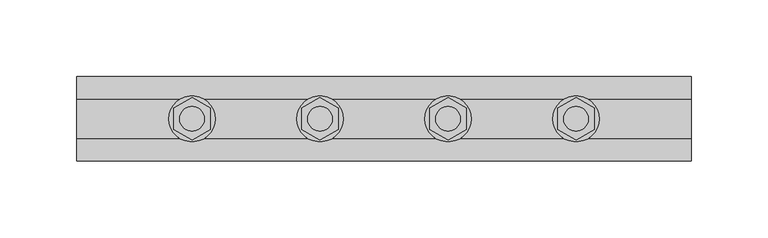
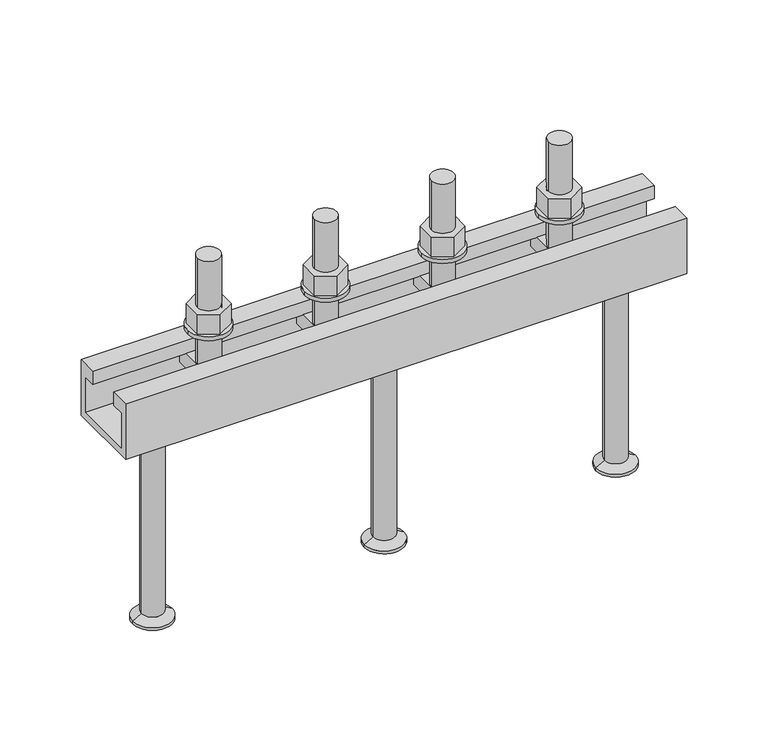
"""IFC4 building model written with IfcOpenShell, lengths in millimetres: fastener geometry, JTA-W JORDAHL® AnchorChannels : JTA-W L=400 mm."""

from ifc_helpers import new_model, si_unit, point, frame, frame_2d, origin, place, context, project, spatial, polyline, circle_curve, trimmed, segment, composite_curve, outline, extrude, source, transform, mapped, element, save
from ifc_brep_helpers import plane_surface, cylinder_surface, revolved_surface, advanced_brep


def fastener_f13404a8(model_context):
    return source(origin(), model_context, "Body", "SolidModel", [
        extrude(outline(polyline([(241.6666667, -13.8564065), (229.6666667, -6.9282032), (229.6666667, 6.9282032), (241.6666667, 13.8564065), (253.6666667, 6.9282032), (253.6666667, -6.9282032), (241.6666667, -13.8564065)]), holes=[composite_curve([segment(trimmed(circle_curve(frame_2d((241.6666667, 0.0)), 8.0), [point((233.6666667, 0.0))], [point((249.6666667, 0.0))], True, "CARTESIAN"), True, "CONTINUOUS"), segment(trimmed(circle_curve(frame_2d((241.6666667, 0.0)), 8.0), [point((249.6666667, 0.0))], [point((233.6666667, 0.0))], True, "CARTESIAN"), True, "CONTINUOUS")], self_intersect=False)]), frame((0.0, 0.0, 18.0), z_axis=(0.0, 0.0, 1.0), x_axis=(1.0, 0.0, 0.0)), (0.0, 0.0, 1.0), 14.8),
        extrude(outline(composite_curve([segment(trimmed(circle_curve(frame_2d((241.6666667, 0.0)), 15.0), [point((226.6666667, 0.0))], [point((256.6666667, 0.0))], False, "CARTESIAN"), True, "CONTINUOUS"), segment(trimmed(circle_curve(frame_2d((241.6666667, 0.0)), 15.0), [point((256.6666667, 0.0))], [point((226.6666667, 0.0))], False, "CARTESIAN"), True, "CONTINUOUS")], self_intersect=False), holes=[composite_curve([segment(trimmed(circle_curve(frame_2d((241.6666667, 0.0)), 8.5), [point((233.1666667, 0.0))], [point((250.1666667, 0.0))], True, "CARTESIAN"), True, "CONTINUOUS"), segment(trimmed(circle_curve(frame_2d((241.6666667, 0.0)), 8.5), [point((250.1666667, 0.0))], [point((233.1666667, 0.0))], True, "CARTESIAN"), True, "CONTINUOUS")], self_intersect=False)]), frame((0.0, 0.0, 15.0), z_axis=(0.0, 0.0, 1.0), x_axis=(1.0, 0.0, 0.0)), (0.0, 0.0, 1.0), 3.0),
        extrude(outline(polyline([(158.3333333, -13.8564065), (146.3333333, -6.9282032), (146.3333333, 6.9282032), (158.3333333, 13.8564065), (170.3333333, 6.9282032), (170.3333333, -6.9282032), (158.3333333, -13.8564065)]), holes=[composite_curve([segment(trimmed(circle_curve(frame_2d((158.3333333, 0.0)), 8.0), [point((150.3333333, 0.0))], [point((166.3333333, 0.0))], True, "CARTESIAN"), True, "CONTINUOUS"), segment(trimmed(circle_curve(frame_2d((158.3333333, 0.0)), 8.0), [point((166.3333333, 0.0))], [point((150.3333333, 0.0))], True, "CARTESIAN"), True, "CONTINUOUS")], self_intersect=False)]), frame((0.0, 0.0, 18.0), z_axis=(0.0, 0.0, 1.0), x_axis=(1.0, 0.0, 0.0)), (0.0, 0.0, 1.0), 14.8),
        extrude(outline(composite_curve([segment(trimmed(circle_curve(frame_2d((158.3333333, 0.0)), 15.0), [point((143.3333333, 0.0))], [point((173.3333333, 0.0))], False, "CARTESIAN"), True, "CONTINUOUS"), segment(trimmed(circle_curve(frame_2d((158.3333333, 0.0)), 15.0), [point((173.3333333, 0.0))], [point((143.3333333, 0.0))], False, "CARTESIAN"), True, "CONTINUOUS")], self_intersect=False), holes=[composite_curve([segment(trimmed(circle_curve(frame_2d((158.3333333, 0.0)), 8.5), [point((149.8333333, 0.0))], [point((166.8333333, 0.0))], True, "CARTESIAN"), True, "CONTINUOUS"), segment(trimmed(circle_curve(frame_2d((158.3333333, 0.0)), 8.5), [point((166.8333333, 0.0))], [point((149.8333333, 0.0))], True, "CARTESIAN"), True, "CONTINUOUS")], self_intersect=False)]), frame((0.0, 0.0, 15.0), z_axis=(0.0, 0.0, 1.0), x_axis=(1.0, 0.0, 0.0)), (0.0, 0.0, 1.0), 3.0),
        advanced_brep(
        [(250.1666667, -20.7, -10.0), (250.1666667, -20.7, -21.0), (250.1666667, 20.7, -21.0), (250.1666667, 20.7, -10.0), (233.1666667, -20.7, -10.0), (233.1666667, 20.7, -10.0), (233.1666667, 20.7, -21.0), (233.1666667, -20.7, -21.0), (249.6666667, 0.0, -10.0), (233.6666667, 0.0, -10.0), (233.6666667, 0.0, 70.0), (249.6666667, 0.0, 70.0)],
        [
            (0, 1),
            (1, 2),
            (2, 3),
            (3, 0),
            (4, 5),
            (5, 6),
            (6, 7),
            (7, 4),
            (3, 5),
            (4, 0),
            (8, 9, circle_curve(frame((241.6666667, 0.0, -10.0), z_axis=(0.0, 0.0, -1.0), x_axis=(1.0, 0.0, 0.0)), 8.0)),
            (9, 8, circle_curve(frame((241.6666667, 0.0, -10.0), z_axis=(0.0, 0.0, -1.0), x_axis=(1.0, 0.0, 0.0)), 8.0)),
            (2, 6),
            (1, 7),
            (10, 11, circle_curve(frame((241.6666667, 0.0, 70.0), z_axis=(0.0, 0.0, 1.0), x_axis=(1.0, 0.0, 0.0)), 8.0)),
            (11, 10, circle_curve(frame((241.6666667, 0.0, 70.0), z_axis=(0.0, 0.0, 1.0), x_axis=(1.0, 0.0, 0.0)), 8.0)),
            (11, 8),
            (9, 10),
        ],
        [
            plane_surface(frame((250.1666667, 20.7, -10.0), z_axis=(1.0, 0.0, 0.0), x_axis=(0.0, 1.0, 0.0))),
            plane_surface(frame((233.1666667, 20.7, -10.0), z_axis=(-1.0, 0.0, 0.0), x_axis=(0.0, -1.0, 0.0))),
            plane_surface(frame((250.1666667, -20.7, -10.0), z_axis=(0.0, 0.0, 1.0), x_axis=(-1.0, 0.0, 0.0))),
            plane_surface(frame((250.1666667, 20.7, -10.0), z_axis=(0.0, 1.0, 0.0), x_axis=(-1.0, 0.0, 0.0))),
            plane_surface(frame((250.1666667, 20.7, -21.0), z_axis=(0.0, 0.0, -1.0), x_axis=(-1.0, 0.0, 0.0))),
            plane_surface(frame((250.1666667, -20.7, -21.0), z_axis=(0.0, -1.0, 0.0), x_axis=(-1.0, 0.0, 0.0))),
            plane_surface(frame((249.6666667, 0.0, 70.0), z_axis=(0.0, 0.0, 1.0), x_axis=(0.0, -1.0, 0.0))),
            cylinder_surface(frame((241.6666667, 0.0, -10.0), z_axis=(0.0, 0.0, 1.0), x_axis=(1.0, 0.0, 0.0)), 8.0),
        ],
        [
            (0, [[1, 2, 3, 4]]),
            (1, [[5, 6, 7, 8]]),
            (2, [[9, -5, 10, -4], [11, 12]]),
            (3, [[13, -6, -9, -3]]),
            (4, [[14, -7, -13, -2]]),
            (5, [[-10, -8, -14, -1]]),
            (6, [[15, 16]]),
            (7, [[17, -12, 18, -16]]),
            (7, [[-18, -11, -17, -15]]),
        ],
    ),
        advanced_brep(
        [(166.8333333, -20.7, -10.0), (166.8333333, -20.7, -21.0), (166.8333333, 20.7, -21.0), (166.8333333, 20.7, -10.0), (149.8333333, -20.7, -10.0), (149.8333333, 20.7, -10.0), (149.8333333, 20.7, -21.0), (149.8333333, -20.7, -21.0), (166.3333333, 0.0, -10.0), (150.3333333, 0.0, -10.0), (150.3333333, 0.0, 70.0), (166.3333333, 0.0, 70.0)],
        [
            (0, 1),
            (1, 2),
            (2, 3),
            (3, 0),
            (4, 5),
            (5, 6),
            (6, 7),
            (7, 4),
            (3, 5),
            (4, 0),
            (8, 9, circle_curve(frame((158.3333333, 0.0, -10.0), z_axis=(0.0, 0.0, -1.0), x_axis=(1.0, 0.0, 0.0)), 8.0)),
            (9, 8, circle_curve(frame((158.3333333, 0.0, -10.0), z_axis=(0.0, 0.0, -1.0), x_axis=(1.0, 0.0, 0.0)), 8.0)),
            (2, 6),
            (1, 7),
            (10, 11, circle_curve(frame((158.3333333, 0.0, 70.0), z_axis=(0.0, 0.0, 1.0), x_axis=(1.0, 0.0, 0.0)), 8.0)),
            (11, 10, circle_curve(frame((158.3333333, 0.0, 70.0), z_axis=(0.0, 0.0, 1.0), x_axis=(1.0, 0.0, 0.0)), 8.0)),
            (11, 8),
            (9, 10),
        ],
        [
            plane_surface(frame((166.8333333, 20.7, -10.0), z_axis=(1.0, 0.0, 0.0), x_axis=(0.0, 1.0, 0.0))),
            plane_surface(frame((149.8333333, 20.7, -10.0), z_axis=(-1.0, 0.0, 0.0), x_axis=(0.0, -1.0, 0.0))),
            plane_surface(frame((166.8333333, -20.7, -10.0), z_axis=(0.0, 0.0, 1.0), x_axis=(-1.0, 0.0, 0.0))),
            plane_surface(frame((166.8333333, 20.7, -10.0), z_axis=(0.0, 1.0, 0.0), x_axis=(-1.0, 0.0, 0.0))),
            plane_surface(frame((166.8333333, 20.7, -21.0), z_axis=(0.0, 0.0, -1.0), x_axis=(-1.0, 0.0, 0.0))),
            plane_surface(frame((166.8333333, -20.7, -21.0), z_axis=(0.0, -1.0, 0.0), x_axis=(-1.0, 0.0, 0.0))),
            plane_surface(frame((166.3333333, 0.0, 70.0), z_axis=(0.0, 0.0, 1.0), x_axis=(0.0, -1.0, 0.0))),
            cylinder_surface(frame((158.3333333, 0.0, -10.0), z_axis=(0.0, 0.0, 1.0), x_axis=(1.0, 0.0, 0.0)), 8.0),
        ],
        [
            (0, [[1, 2, 3, 4]]),
            (1, [[5, 6, 7, 8]]),
            (2, [[9, -5, 10, -4], [11, 12]]),
            (3, [[13, -6, -9, -3]]),
            (4, [[14, -7, -13, -2]]),
            (5, [[-10, -8, -14, -1]]),
            (6, [[15, 16]]),
            (7, [[17, -12, 18, -16]]),
            (7, [[-18, -11, -17, -15]]),
        ],
    ),
        advanced_brep(
        [(200.0, 0.0, -42.0), (177.0, 0.0, -42.0), (223.0, 0.0, -42.0), (186.0, 0.0, -190.0), (200.0, 0.0, -190.0), (214.0, 0.0, -190.0), (186.0, 0.0, -188.0), (214.0, 0.0, -188.0), (192.2, 0.0, -184.4204283), (207.8, 0.0, -184.4204283), (192.2, 0.0, -46.0), (207.8, 0.0, -46.0)],
        [
            (0, 1),
            (1, 2, circle_curve(frame((200.0, 0.0, -42.0), z_axis=(0.0, 0.0, 1.0), x_axis=(1.0, 0.0, 0.0)), 23.0)),
            (2, 0),
            (2, 1, circle_curve(frame((200.0, 0.0, -42.0), z_axis=(0.0, 0.0, 1.0), x_axis=(1.0, 0.0, 0.0)), 23.0)),
            (3, 4),
            (4, 5),
            (5, 3, circle_curve(frame((200.0, 0.0, -190.0), z_axis=(0.0, 0.0, -1.0), x_axis=(1.0, 0.0, 0.0)), 14.0)),
            (3, 5, circle_curve(frame((200.0, 0.0, -190.0), z_axis=(0.0, 0.0, -1.0), x_axis=(1.0, 0.0, 0.0)), 14.0)),
            (6, 3),
            (5, 7),
            (7, 6, circle_curve(frame((200.0, 0.0, -188.0), z_axis=(0.0, 0.0, -1.0), x_axis=(1.0, 0.0, 0.0)), 14.0)),
            (6, 7, circle_curve(frame((200.0, 0.0, -188.0), z_axis=(0.0, 0.0, -1.0), x_axis=(1.0, 0.0, 0.0)), 14.0)),
            (8, 6),
            (7, 9),
            (9, 8, circle_curve(frame((200.0, 0.0, -184.4204283), z_axis=(0.0, 0.0, -1.0), x_axis=(1.0, 0.0, 0.0)), 7.8)),
            (8, 9, circle_curve(frame((200.0, 0.0, -184.4204283), z_axis=(0.0, 0.0, -1.0), x_axis=(1.0, 0.0, 0.0)), 7.8)),
            (10, 8),
            (9, 11),
            (11, 10, circle_curve(frame((200.0, 0.0, -46.0), z_axis=(0.0, 0.0, -1.0), x_axis=(1.0, 0.0, 0.0)), 7.8)),
            (10, 11, circle_curve(frame((200.0, 0.0, -46.0), z_axis=(0.0, 0.0, -1.0), x_axis=(1.0, 0.0, 0.0)), 7.8)),
            (1, 10),
            (11, 2),
        ],
        [
            plane_surface(frame((200.0, 0.0, -42.0), z_axis=(0.0, 0.0, 1.0), x_axis=(1.0, 0.0, 0.0))),
            plane_surface(frame((200.0, 0.0, -190.0), z_axis=(0.0, 0.0, -1.0), x_axis=(1.0, 0.0, 0.0))),
            cylinder_surface(frame((200.0, 0.0, 2362.3150031), z_axis=(0.0, 0.0, 1.0), x_axis=(1.0, 0.0, 0.0)), 14.0),
            revolved_surface(polyline([(214.0, 0.0, -188.0), (207.8, 0.0, -184.4204283)]), (200.0, 0.0, 2362.3150031), (0.0, 0.0, 1.0)),
            cylinder_surface(frame((200.0, 0.0, 2362.3150031), z_axis=(0.0, 0.0, 1.0), x_axis=(1.0, 0.0, 0.0)), 7.8),
            revolved_surface(polyline([(207.8, 0.0, -46.0), (223.0, 0.0, -42.0)]), (200.0, 0.0, 2362.3150031), (0.0, 0.0, 1.0)),
        ],
        [
            (0, [[1, 2, 3]]),
            (0, [[-3, 4, -1]]),
            (1, [[5, 6, 7]]),
            (1, [[-6, -5, 8]]),
            (2, [[9, -7, 10, 11]]),
            (2, [[-10, -8, -9, 12]]),
            (3, [[13, -11, 14, 15]]),
            (3, [[-14, -12, -13, 16]]),
            (4, [[17, -15, 18, 19]]),
            (4, [[-18, -16, -17, 20]]),
            (5, [[21, -19, 22, -2]]),
            (5, [[-22, -20, -21, -4]]),
        ],
    ),
        extrude(outline(polyline([(325.0, -13.8564065), (313.0, -6.9282032), (313.0, 6.9282032), (325.0, 13.8564065), (337.0, 6.9282032), (337.0, -6.9282032), (325.0, -13.8564065)]), holes=[composite_curve([segment(trimmed(circle_curve(frame_2d((325.0, 0.0)), 8.0), [point((317.0, 0.0))], [point((333.0, 0.0))], True, "CARTESIAN"), True, "CONTINUOUS"), segment(trimmed(circle_curve(frame_2d((325.0, 0.0)), 8.0), [point((333.0, 0.0))], [point((317.0, 0.0))], True, "CARTESIAN"), True, "CONTINUOUS")], self_intersect=False)]), frame((0.0, 0.0, 18.0), z_axis=(0.0, 0.0, 1.0), x_axis=(1.0, 0.0, 0.0)), (0.0, 0.0, 1.0), 14.8),
        extrude(outline(composite_curve([segment(trimmed(circle_curve(frame_2d((325.0, 0.0)), 15.0), [point((310.0, 0.0))], [point((340.0, 0.0))], False, "CARTESIAN"), True, "CONTINUOUS"), segment(trimmed(circle_curve(frame_2d((325.0, 0.0)), 15.0), [point((340.0, 0.0))], [point((310.0, 0.0))], False, "CARTESIAN"), True, "CONTINUOUS")], self_intersect=False), holes=[composite_curve([segment(trimmed(circle_curve(frame_2d((325.0, 0.0)), 8.5), [point((316.5, 0.0))], [point((333.5, 0.0))], True, "CARTESIAN"), True, "CONTINUOUS"), segment(trimmed(circle_curve(frame_2d((325.0, 0.0)), 8.5), [point((333.5, 0.0))], [point((316.5, 0.0))], True, "CARTESIAN"), True, "CONTINUOUS")], self_intersect=False)]), frame((0.0, 0.0, 15.0), z_axis=(0.0, 0.0, 1.0), x_axis=(1.0, 0.0, 0.0)), (0.0, 0.0, 1.0), 3.0),
        extrude(outline(polyline([(75.0, -13.8564065), (63.0, -6.9282032), (63.0, 6.9282032), (75.0, 13.8564065), (87.0, 6.9282032), (87.0, -6.9282032), (75.0, -13.8564065)]), holes=[composite_curve([segment(trimmed(circle_curve(frame_2d((75.0, 0.0)), 8.0), [point((67.0, 0.0))], [point((83.0, 0.0))], True, "CARTESIAN"), True, "CONTINUOUS"), segment(trimmed(circle_curve(frame_2d((75.0, 0.0)), 8.0), [point((83.0, 0.0))], [point((67.0, 0.0))], True, "CARTESIAN"), True, "CONTINUOUS")], self_intersect=False)]), frame((0.0, 0.0, 18.0), z_axis=(0.0, 0.0, 1.0), x_axis=(1.0, 0.0, 0.0)), (0.0, 0.0, 1.0), 14.8),
        extrude(outline(composite_curve([segment(trimmed(circle_curve(frame_2d((75.0, 0.0)), 15.0), [point((60.0, 0.0))], [point((90.0, 0.0))], False, "CARTESIAN"), True, "CONTINUOUS"), segment(trimmed(circle_curve(frame_2d((75.0, 0.0)), 15.0), [point((90.0, 0.0))], [point((60.0, 0.0))], False, "CARTESIAN"), True, "CONTINUOUS")], self_intersect=False), holes=[composite_curve([segment(trimmed(circle_curve(frame_2d((75.0, 0.0)), 8.5), [point((66.5, 0.0))], [point((83.5, 0.0))], True, "CARTESIAN"), True, "CONTINUOUS"), segment(trimmed(circle_curve(frame_2d((75.0, 0.0)), 8.5), [point((83.5, 0.0))], [point((66.5, 0.0))], True, "CARTESIAN"), True, "CONTINUOUS")], self_intersect=False)]), frame((0.0, 0.0, 15.0), z_axis=(0.0, 0.0, 1.0), x_axis=(1.0, 0.0, 0.0)), (0.0, 0.0, 1.0), 3.0),
        advanced_brep(
        [(333.5, -20.7, -10.0), (333.5, -20.7, -21.0), (333.5, 20.7, -21.0), (333.5, 20.7, -10.0), (316.5, -20.7, -10.0), (316.5, 20.7, -10.0), (316.5, 20.7, -21.0), (316.5, -20.7, -21.0), (333.0, 0.0, -10.0), (317.0, 0.0, -10.0), (317.0, 0.0, 70.0), (333.0, 0.0, 70.0)],
        [
            (0, 1),
            (1, 2),
            (2, 3),
            (3, 0),
            (4, 5),
            (5, 6),
            (6, 7),
            (7, 4),
            (3, 5),
            (4, 0),
            (8, 9, circle_curve(frame((325.0, 0.0, -10.0), z_axis=(0.0, 0.0, -1.0), x_axis=(1.0, 0.0, 0.0)), 8.0)),
            (9, 8, circle_curve(frame((325.0, 0.0, -10.0), z_axis=(0.0, 0.0, -1.0), x_axis=(1.0, 0.0, 0.0)), 8.0)),
            (2, 6),
            (1, 7),
            (10, 11, circle_curve(frame((325.0, 0.0, 70.0), z_axis=(0.0, 0.0, 1.0), x_axis=(1.0, 0.0, 0.0)), 8.0)),
            (11, 10, circle_curve(frame((325.0, 0.0, 70.0), z_axis=(0.0, 0.0, 1.0), x_axis=(1.0, 0.0, 0.0)), 8.0)),
            (11, 8),
            (9, 10),
        ],
        [
            plane_surface(frame((333.5, 20.7, -10.0), z_axis=(1.0, 0.0, 0.0), x_axis=(0.0, 1.0, 0.0))),
            plane_surface(frame((316.5, 20.7, -10.0), z_axis=(-1.0, 0.0, 0.0), x_axis=(0.0, -1.0, 0.0))),
            plane_surface(frame((333.5, -20.7, -10.0), z_axis=(0.0, 0.0, 1.0), x_axis=(-1.0, 0.0, 0.0))),
            plane_surface(frame((333.5, 20.7, -10.0), z_axis=(0.0, 1.0, 0.0), x_axis=(-1.0, 0.0, 0.0))),
            plane_surface(frame((333.5, 20.7, -21.0), z_axis=(0.0, 0.0, -1.0), x_axis=(-1.0, 0.0, 0.0))),
            plane_surface(frame((333.5, -20.7, -21.0), z_axis=(0.0, -1.0, 0.0), x_axis=(-1.0, 0.0, 0.0))),
            plane_surface(frame((333.0, 0.0, 70.0), z_axis=(0.0, 0.0, 1.0), x_axis=(0.0, -1.0, 0.0))),
            cylinder_surface(frame((325.0, 0.0, -10.0), z_axis=(0.0, 0.0, 1.0), x_axis=(1.0, 0.0, 0.0)), 8.0),
        ],
        [
            (0, [[1, 2, 3, 4]]),
            (1, [[5, 6, 7, 8]]),
            (2, [[9, -5, 10, -4], [11, 12]]),
            (3, [[13, -6, -9, -3]]),
            (4, [[14, -7, -13, -2]]),
            (5, [[-10, -8, -14, -1]]),
            (6, [[15, 16]]),
            (7, [[17, -12, 18, -16]]),
            (7, [[-18, -11, -17, -15]]),
        ],
    ),
        advanced_brep(
        [(83.5, -20.7, -10.0), (83.5, -20.7, -21.0), (83.5, 20.7, -21.0), (83.5, 20.7, -10.0), (66.5, -20.7, -10.0), (66.5, 20.7, -10.0), (66.5, 20.7, -21.0), (66.5, -20.7, -21.0), (83.0, 0.0, -10.0), (67.0, 0.0, -10.0), (67.0, 0.0, 70.0), (83.0, 0.0, 70.0)],
        [
            (0, 1),
            (1, 2),
            (2, 3),
            (3, 0),
            (4, 5),
            (5, 6),
            (6, 7),
            (7, 4),
            (3, 5),
            (4, 0),
            (8, 9, circle_curve(frame((75.0, 0.0, -10.0), z_axis=(0.0, 0.0, -1.0), x_axis=(1.0, 0.0, 0.0)), 8.0)),
            (9, 8, circle_curve(frame((75.0, 0.0, -10.0), z_axis=(0.0, 0.0, -1.0), x_axis=(1.0, 0.0, 0.0)), 8.0)),
            (2, 6),
            (1, 7),
            (10, 11, circle_curve(frame((75.0, 0.0, 70.0), z_axis=(0.0, 0.0, 1.0), x_axis=(1.0, 0.0, 0.0)), 8.0)),
            (11, 10, circle_curve(frame((75.0, 0.0, 70.0), z_axis=(0.0, 0.0, 1.0), x_axis=(1.0, 0.0, 0.0)), 8.0)),
            (11, 8),
            (9, 10),
        ],
        [
            plane_surface(frame((83.5, 20.7, -10.0), z_axis=(1.0, 0.0, 0.0), x_axis=(0.0, 1.0, 0.0))),
            plane_surface(frame((66.5, 20.7, -10.0), z_axis=(-1.0, 0.0, 0.0), x_axis=(0.0, -1.0, 0.0))),
            plane_surface(frame((83.5, -20.7, -10.0), z_axis=(0.0, 0.0, 1.0), x_axis=(-1.0, 0.0, 0.0))),
            plane_surface(frame((83.5, 20.7, -10.0), z_axis=(0.0, 1.0, 0.0), x_axis=(-1.0, 0.0, 0.0))),
            plane_surface(frame((83.5, 20.7, -21.0), z_axis=(0.0, 0.0, -1.0), x_axis=(-1.0, 0.0, 0.0))),
            plane_surface(frame((83.5, -20.7, -21.0), z_axis=(0.0, -1.0, 0.0), x_axis=(-1.0, 0.0, 0.0))),
            plane_surface(frame((83.0, 0.0, 70.0), z_axis=(0.0, 0.0, 1.0), x_axis=(0.0, -1.0, 0.0))),
            cylinder_surface(frame((75.0, 0.0, -10.0), z_axis=(0.0, 0.0, 1.0), x_axis=(1.0, 0.0, 0.0)), 8.0),
        ],
        [
            (0, [[1, 2, 3, 4]]),
            (1, [[5, 6, 7, 8]]),
            (2, [[9, -5, 10, -4], [11, 12]]),
            (3, [[13, -6, -9, -3]]),
            (4, [[14, -7, -13, -2]]),
            (5, [[-10, -8, -14, -1]]),
            (6, [[15, 16]]),
            (7, [[17, -12, 18, -16]]),
            (7, [[-18, -11, -17, -15]]),
        ],
    ),
        advanced_brep(
        [(365.0, 0.0, -42.0), (342.0, 0.0, -42.0), (388.0, 0.0, -42.0), (351.0, 0.0, -190.0), (365.0, 0.0, -190.0), (379.0, 0.0, -190.0), (351.0, 0.0, -188.0), (379.0, 0.0, -188.0), (357.2, 0.0, -184.4204283), (372.8, 0.0, -184.4204283), (357.2, 0.0, -46.0), (372.8, 0.0, -46.0)],
        [
            (0, 1),
            (1, 2, circle_curve(frame((365.0, 0.0, -42.0), z_axis=(0.0, 0.0, 1.0), x_axis=(1.0, 0.0, 0.0)), 23.0)),
            (2, 0),
            (2, 1, circle_curve(frame((365.0, 0.0, -42.0), z_axis=(0.0, 0.0, 1.0), x_axis=(1.0, 0.0, 0.0)), 23.0)),
            (3, 4),
            (4, 5),
            (5, 3, circle_curve(frame((365.0, 0.0, -190.0), z_axis=(0.0, 0.0, -1.0), x_axis=(1.0, 0.0, 0.0)), 14.0)),
            (3, 5, circle_curve(frame((365.0, 0.0, -190.0), z_axis=(0.0, 0.0, -1.0), x_axis=(1.0, 0.0, 0.0)), 14.0)),
            (6, 3),
            (5, 7),
            (7, 6, circle_curve(frame((365.0, 0.0, -188.0), z_axis=(0.0, 0.0, -1.0), x_axis=(1.0, 0.0, 0.0)), 14.0)),
            (6, 7, circle_curve(frame((365.0, 0.0, -188.0), z_axis=(0.0, 0.0, -1.0), x_axis=(1.0, 0.0, 0.0)), 14.0)),
            (8, 6),
            (7, 9),
            (9, 8, circle_curve(frame((365.0, 0.0, -184.4204283), z_axis=(0.0, 0.0, -1.0), x_axis=(1.0, 0.0, 0.0)), 7.8)),
            (8, 9, circle_curve(frame((365.0, 0.0, -184.4204283), z_axis=(0.0, 0.0, -1.0), x_axis=(1.0, 0.0, 0.0)), 7.8)),
            (10, 8),
            (9, 11),
            (11, 10, circle_curve(frame((365.0, 0.0, -46.0), z_axis=(0.0, 0.0, -1.0), x_axis=(1.0, 0.0, 0.0)), 7.8)),
            (10, 11, circle_curve(frame((365.0, 0.0, -46.0), z_axis=(0.0, 0.0, -1.0), x_axis=(1.0, 0.0, 0.0)), 7.8)),
            (1, 10),
            (11, 2),
        ],
        [
            plane_surface(frame((365.0, 0.0, -42.0), z_axis=(0.0, 0.0, 1.0), x_axis=(1.0, 0.0, 0.0))),
            plane_surface(frame((365.0, 0.0, -190.0), z_axis=(0.0, 0.0, -1.0), x_axis=(1.0, 0.0, 0.0))),
            cylinder_surface(frame((365.0, 0.0, 2362.3150031), z_axis=(0.0, 0.0, 1.0), x_axis=(1.0, 0.0, 0.0)), 14.0),
            revolved_surface(polyline([(379.0, 0.0, -188.0), (372.8, 0.0, -184.4204283)]), (365.0, 0.0, 2362.3150031), (0.0, 0.0, 1.0)),
            cylinder_surface(frame((365.0, 0.0, 2362.3150031), z_axis=(0.0, 0.0, 1.0), x_axis=(1.0, 0.0, 0.0)), 7.8),
            revolved_surface(polyline([(372.8, 0.0, -46.0), (388.0, 0.0, -42.0)]), (365.0, 0.0, 2362.3150031), (0.0, 0.0, 1.0)),
        ],
        [
            (0, [[1, 2, 3]]),
            (0, [[-3, 4, -1]]),
            (1, [[5, 6, 7]]),
            (1, [[-6, -5, 8]]),
            (2, [[9, -7, 10, 11]]),
            (2, [[-10, -8, -9, 12]]),
            (3, [[13, -11, 14, 15]]),
            (3, [[-14, -12, -13, 16]]),
            (4, [[17, -15, 18, 19]]),
            (4, [[-18, -16, -17, 20]]),
            (5, [[21, -19, 22, -2]]),
            (5, [[-22, -20, -21, -4]]),
        ],
    ),
        advanced_brep(
        [(35.0, 0.0, -42.0), (12.0, 0.0, -42.0), (58.0, 0.0, -42.0), (21.0, 0.0, -190.0), (35.0, 0.0, -190.0), (49.0, 0.0, -190.0), (21.0, 0.0, -188.0), (49.0, 0.0, -188.0), (27.2, 0.0, -184.4204283), (42.8, 0.0, -184.4204283), (27.2, 0.0, -46.0), (42.8, 0.0, -46.0)],
        [
            (0, 1),
            (1, 2, circle_curve(frame((35.0, 0.0, -42.0), z_axis=(0.0, 0.0, 1.0), x_axis=(1.0, 0.0, 0.0)), 23.0)),
            (2, 0),
            (2, 1, circle_curve(frame((35.0, 0.0, -42.0), z_axis=(0.0, 0.0, 1.0), x_axis=(1.0, 0.0, 0.0)), 23.0)),
            (3, 4),
            (4, 5),
            (5, 3, circle_curve(frame((35.0, 0.0, -190.0), z_axis=(0.0, 0.0, -1.0), x_axis=(1.0, 0.0, 0.0)), 14.0)),
            (3, 5, circle_curve(frame((35.0, 0.0, -190.0), z_axis=(0.0, 0.0, -1.0), x_axis=(1.0, 0.0, 0.0)), 14.0)),
            (6, 3),
            (5, 7),
            (7, 6, circle_curve(frame((35.0, 0.0, -188.0), z_axis=(0.0, 0.0, -1.0), x_axis=(1.0, 0.0, 0.0)), 14.0)),
            (6, 7, circle_curve(frame((35.0, 0.0, -188.0), z_axis=(0.0, 0.0, -1.0), x_axis=(1.0, 0.0, 0.0)), 14.0)),
            (8, 6),
            (7, 9),
            (9, 8, circle_curve(frame((35.0, 0.0, -184.4204283), z_axis=(0.0, 0.0, -1.0), x_axis=(1.0, 0.0, 0.0)), 7.8)),
            (8, 9, circle_curve(frame((35.0, 0.0, -184.4204283), z_axis=(0.0, 0.0, -1.0), x_axis=(1.0, 0.0, 0.0)), 7.8)),
            (10, 8),
            (9, 11),
            (11, 10, circle_curve(frame((35.0, 0.0, -46.0), z_axis=(0.0, 0.0, -1.0), x_axis=(1.0, 0.0, 0.0)), 7.8)),
            (10, 11, circle_curve(frame((35.0, 0.0, -46.0), z_axis=(0.0, 0.0, -1.0), x_axis=(1.0, 0.0, 0.0)), 7.8)),
            (1, 10),
            (11, 2),
        ],
        [
            plane_surface(frame((35.0, 0.0, -42.0), z_axis=(0.0, 0.0, 1.0), x_axis=(1.0, 0.0, 0.0))),
            plane_surface(frame((35.0, 0.0, -190.0), z_axis=(0.0, 0.0, -1.0), x_axis=(1.0, 0.0, 0.0))),
            cylinder_surface(frame((35.0, 0.0, 2362.3150031), z_axis=(0.0, 0.0, 1.0), x_axis=(1.0, 0.0, 0.0)), 14.0),
            revolved_surface(polyline([(49.0, 0.0, -188.0), (42.8, 0.0, -184.4204283)]), (35.0, 0.0, 2362.3150031), (0.0, 0.0, 1.0)),
            cylinder_surface(frame((35.0, 0.0, 2362.3150031), z_axis=(0.0, 0.0, 1.0), x_axis=(1.0, 0.0, 0.0)), 7.8),
            revolved_surface(polyline([(42.8, 0.0, -46.0), (58.0, 0.0, -42.0)]), (35.0, 0.0, 2362.3150031), (0.0, 0.0, 1.0)),
        ],
        [
            (0, [[1, 2, 3]]),
            (0, [[-3, 4, -1]]),
            (1, [[5, 6, 7]]),
            (1, [[-6, -5, 8]]),
            (2, [[9, -7, 10, 11]]),
            (2, [[-10, -8, -9, 12]]),
            (3, [[13, -11, 14, 15]]),
            (3, [[-14, -12, -13, 16]]),
            (4, [[17, -15, 18, 19]]),
            (4, [[-18, -16, -17, 20]]),
            (5, [[21, -19, 22, -2]]),
            (5, [[-22, -20, -21, -4]]),
        ],
    ),
        extrude(outline(polyline([(-27.5, 0.0), (-13.0, 0.0), (-13.0, -10.0), (-22.5, -10.0), (-22.5, -37.0), (22.5, -37.0), (22.5, -10.0), (13.0, -10.0), (13.0, 0.0), (27.5, 0.0), (27.5, -42.0), (-27.5, -42.0), (-27.5, 0.0)])), frame((0.0, 0.0, 0.0), z_axis=(1.0, 0.0, 0.0), x_axis=(0.0, 1.0, 0.0)), (0.0, 0.0, 1.0), 400.0),
    ])


if __name__ == "__main__":
    model = new_model("IFC4")
    model_context = context("Model", 3, world=origin())
    ifc_project = project(units=[si_unit("LENGTHUNIT", "METRE", prefix="MILLI")], contexts=[model_context])
    site = spatial("IfcSite", under=ifc_project)
    building = spatial("IfcBuilding", under=site)
    placement = place(None, origin())
    fastener_shape = fastener_f13404a8(model_context)
    element("IfcFastener", 1, ObjectType="JTA-W JORDAHL® AnchorChannels : JTA-W L=400 mm", at=placement, inside=building, context=model_context, shape_type="MappedRepresentation", body=[
        mapped(fastener_shape, transform((0.0, 0.0, 0.0), x_axis=(1.0, 0.0, 0.0), y_axis=(0.0, 1.0, 0.0), z_axis=(0.0, 0.0, 1.0))),
    ])
    save(model, "model.ifc")
